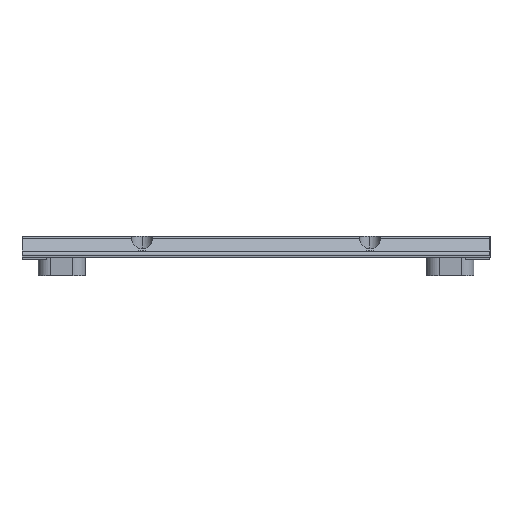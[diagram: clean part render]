
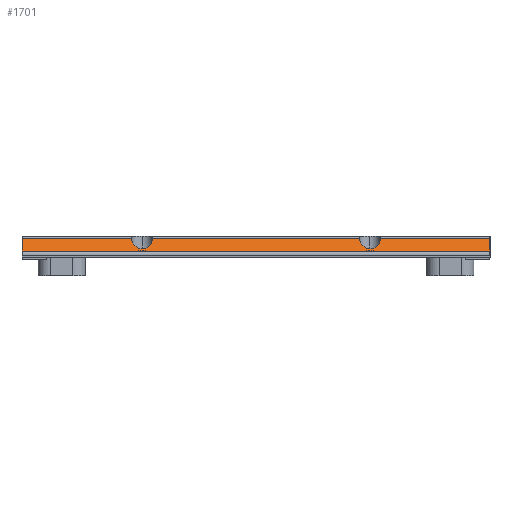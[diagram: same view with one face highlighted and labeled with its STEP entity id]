
A CAD part, left-side view. The second image highlights one B-rep face of the part: STEP entity #1701.
In plain terms, the highlighted planar face has unit normal (-0.707, 0, 0.707).
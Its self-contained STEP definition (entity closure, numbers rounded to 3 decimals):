
#29 = EDGE_CURVE ( 'NONE', #6920, #5671, #7888, .T. ) ;
#167 = VERTEX_POINT ( 'NONE', #7973 ) ;
#470 = DIRECTION ( 'NONE',  ( 0., -1., 0. ) ) ;
#500 = LINE ( 'NONE', #8549, #6108 ) ;
#873 = EDGE_CURVE ( 'NONE', #5671, #3941, #1386, .T. ) ;
#961 = EDGE_CURVE ( 'NONE', #167, #2543, #8528, .T. ) ;
#1265 = DIRECTION ( 'NONE',  ( -0.707, 0., 0.707 ) ) ;
#1352 = CARTESIAN_POINT ( 'NONE',  ( 1.561, 0., 4.561 ) ) ;
#1386 =( BOUNDED_CURVE ( )  B_SPLINE_CURVE ( 3, ( #1883, #2552, #3943, #8886 ),
 .UNSPECIFIED., .F., .F. ) 
 B_SPLINE_CURVE_WITH_KNOTS ( ( 4, 4 ),
 ( 3.142, 4.737 ),
 .UNSPECIFIED. ) 
 CURVE ( )  GEOMETRIC_REPRESENTATION_ITEM ( )  RATIONAL_B_SPLINE_CURVE ( ( 1., 0.799, 0.799, 1. ) ) 
 REPRESENTATION_ITEM ( '' )  );
#1423 = AXIS2_PLACEMENT_3D ( 'NONE', #2001, #1265, #6205 ) ;
#1492 =( BOUNDED_CURVE ( )  B_SPLINE_CURVE ( 3, ( #6157, #6124, #4705, #4014 ),
 .UNSPECIFIED., .F., .F. ) 
 B_SPLINE_CURVE_WITH_KNOTS ( ( 4, 4 ),
 ( 1.547, 3.142 ),
 .UNSPECIFIED. ) 
 CURVE ( )  GEOMETRIC_REPRESENTATION_ITEM ( )  RATIONAL_B_SPLINE_CURVE ( ( 1., 0.799, 0.799, 1. ) ) 
 REPRESENTATION_ITEM ( '' )  );
#1701 = ADVANCED_FACE ( 'NONE', ( #7305 ), #2496, .T. ) ;
#1883 = CARTESIAN_POINT ( 'NONE',  ( -1., 16.937, 2. ) ) ;
#2001 = CARTESIAN_POINT ( 'NONE',  ( 2., 0., 5. ) ) ;
#2014 = DIRECTION ( 'NONE',  ( 0., 1., 0. ) ) ;
#2102 = CARTESIAN_POINT ( 'NONE',  ( 1.561, 19.436, 4.561 ) ) ;
#2128 = ORIENTED_EDGE ( 'NONE', *, *, #8647, .T. ) ;
#2217 = CARTESIAN_POINT ( 'NONE',  ( 1.561, 19.436, 4.561 ) ) ;
#2383 = ORIENTED_EDGE ( 'NONE', *, *, #6782, .T. ) ;
#2496 = PLANE ( 'NONE',  #1423 ) ;
#2543 = VERTEX_POINT ( 'NONE', #7239 ) ;
#2552 = CARTESIAN_POINT ( 'NONE',  ( -1., 15.444, 2. ) ) ;
#2733 = ORIENTED_EDGE ( 'NONE', *, *, #4432, .T. ) ;
#2932 = CARTESIAN_POINT ( 'NONE',  ( 0.068, 19.472, 3.068 ) ) ;
#3137 = EDGE_CURVE ( 'NONE', #6920, #2543, #4679, .T. ) ;
#3174 = VECTOR ( 'NONE', #7853, 1000. ) ;
#3394 = CARTESIAN_POINT ( 'NONE',  ( 1.561, 0., 4.561 ) ) ;
#3476 = VECTOR ( 'NONE', #7976, 1000. ) ;
#3630 = ORIENTED_EDGE ( 'NONE', *, *, #873, .F. ) ;
#3662 = EDGE_CURVE ( 'NONE', #7657, #8117, #1492, .T. ) ;
#3941 = VERTEX_POINT ( 'NONE', #5366 ) ;
#3943 = CARTESIAN_POINT ( 'NONE',  ( 0.068, 14.401, 3.068 ) ) ;
#3985 = CARTESIAN_POINT ( 'NONE',  ( -1., -39.556, 2. ) ) ;
#4014 = CARTESIAN_POINT ( 'NONE',  ( -1., -38.063, 2. ) ) ;
#4379 = ORIENTED_EDGE ( 'NONE', *, *, #8189, .F. ) ;
#4432 = EDGE_CURVE ( 'NONE', #167, #6433, #7823, .T. ) ;
#4654 = EDGE_LOOP ( 'NONE', ( #8490, #2128, #4379, #6588, #2383, #3630, #7326, #7445, #7902, #2733 ) ) ;
#4668 = CARTESIAN_POINT ( 'NONE',  ( -1.561, -67.063, 1.439 ) ) ;
#4679 = LINE ( 'NONE', #5863, #3476 ) ;
#4705 = CARTESIAN_POINT ( 'NONE',  ( -1., -36.57, 2. ) ) ;
#5046 = VECTOR ( 'NONE', #2014, 1000. ) ;
#5255 = CARTESIAN_POINT ( 'NONE',  ( 1.561, -67.063, 4.561 ) ) ;
#5332 = CARTESIAN_POINT ( 'NONE',  ( -1., -38.063, 2. ) ) ;
#5361 = CARTESIAN_POINT ( 'NONE',  ( 0.068, -40.599, 3.068 ) ) ;
#5366 = CARTESIAN_POINT ( 'NONE',  ( 1.561, 14.437, 4.561 ) ) ;
#5436 = DIRECTION ( 'NONE',  ( 0.707, 0., 0.707 ) ) ;
#5671 = VERTEX_POINT ( 'NONE', #8491 ) ;
#5757 = VECTOR ( 'NONE', #5436, 1000. ) ;
#5800 = DIRECTION ( 'NONE',  ( -0.707, 0., -0.707 ) ) ;
#5863 = CARTESIAN_POINT ( 'NONE',  ( 1.561, 0., 4.561 ) ) ;
#6108 = VECTOR ( 'NONE', #5800, 1000. ) ;
#6124 = CARTESIAN_POINT ( 'NONE',  ( 0.068, -35.528, 3.068 ) ) ;
#6157 = CARTESIAN_POINT ( 'NONE',  ( 1.561, -35.564, 4.561 ) ) ;
#6205 = DIRECTION ( 'NONE',  ( 0., 1., 0. ) ) ;
#6348 = CARTESIAN_POINT ( 'NONE',  ( 1.561, -40.563, 4.561 ) ) ;
#6433 = VERTEX_POINT ( 'NONE', #7815 ) ;
#6588 = ORIENTED_EDGE ( 'NONE', *, *, #3662, .F. ) ;
#6600 = CARTESIAN_POINT ( 'NONE',  ( -1., -38.063, 2. ) ) ;
#6782 = EDGE_CURVE ( 'NONE', #7657, #3941, #8306, .T. ) ;
#6920 = VERTEX_POINT ( 'NONE', #2102 ) ;
#7157 = CARTESIAN_POINT ( 'NONE',  ( -1., 18.43, 2. ) ) ;
#7190 = CARTESIAN_POINT ( 'NONE',  ( -1., 16.937, 2. ) ) ;
#7239 = CARTESIAN_POINT ( 'NONE',  ( 1.561, 45.937, 4.561 ) ) ;
#7305 = FACE_OUTER_BOUND ( 'NONE', #4654, .T. ) ;
#7326 = ORIENTED_EDGE ( 'NONE', *, *, #29, .F. ) ;
#7445 = ORIENTED_EDGE ( 'NONE', *, *, #3137, .T. ) ;
#7596 = VECTOR ( 'NONE', #470, 1000. ) ;
#7657 = VERTEX_POINT ( 'NONE', #8005 ) ;
#7664 = LINE ( 'NONE', #1352, #3174 ) ;
#7721 = VERTEX_POINT ( 'NONE', #5255 ) ;
#7815 = CARTESIAN_POINT ( 'NONE',  ( -1.561, -67.063, 1.439 ) ) ;
#7823 = LINE ( 'NONE', #4668, #7596 ) ;
#7853 = DIRECTION ( 'NONE',  ( 0., 1., 0. ) ) ;
#7888 =( BOUNDED_CURVE ( )  B_SPLINE_CURVE ( 3, ( #2217, #2932, #7157, #7190 ),
 .UNSPECIFIED., .F., .F. ) 
 B_SPLINE_CURVE_WITH_KNOTS ( ( 4, 4 ),
 ( 1.547, 3.142 ),
 .UNSPECIFIED. ) 
 CURVE ( )  GEOMETRIC_REPRESENTATION_ITEM ( )  RATIONAL_B_SPLINE_CURVE ( ( 1., 0.799, 0.799, 1. ) ) 
 REPRESENTATION_ITEM ( '' )  );
#7902 = ORIENTED_EDGE ( 'NONE', *, *, #961, .F. ) ;
#7915 = VERTEX_POINT ( 'NONE', #6348 ) ;
#7973 = CARTESIAN_POINT ( 'NONE',  ( -1.561, 45.937, 1.439 ) ) ;
#7976 = DIRECTION ( 'NONE',  ( 0., 1., 0. ) ) ;
#8005 = CARTESIAN_POINT ( 'NONE',  ( 1.561, -35.564, 4.561 ) ) ;
#8117 = VERTEX_POINT ( 'NONE', #6600 ) ;
#8156 = CARTESIAN_POINT ( 'NONE',  ( 1.561, -40.563, 4.561 ) ) ;
#8189 = EDGE_CURVE ( 'NONE', #8117, #7915, #8471, .T. ) ;
#8209 = CARTESIAN_POINT ( 'NONE',  ( 2., 45.937, 5. ) ) ;
#8306 = LINE ( 'NONE', #3394, #5046 ) ;
#8442 = EDGE_CURVE ( 'NONE', #7721, #6433, #500, .T. ) ;
#8471 =( BOUNDED_CURVE ( )  B_SPLINE_CURVE ( 3, ( #5332, #3985, #5361, #8156 ),
 .UNSPECIFIED., .F., .T. ) 
 B_SPLINE_CURVE_WITH_KNOTS ( ( 4, 4 ),
 ( 3.142, 4.737 ),
 .UNSPECIFIED. ) 
 CURVE ( )  GEOMETRIC_REPRESENTATION_ITEM ( )  RATIONAL_B_SPLINE_CURVE ( ( 1., 0.799, 0.799, 1. ) ) 
 REPRESENTATION_ITEM ( '' )  );
#8490 = ORIENTED_EDGE ( 'NONE', *, *, #8442, .F. ) ;
#8491 = CARTESIAN_POINT ( 'NONE',  ( -1., 16.937, 2. ) ) ;
#8528 = LINE ( 'NONE', #8209, #5757 ) ;
#8549 = CARTESIAN_POINT ( 'NONE',  ( 2., -67.063, 5. ) ) ;
#8647 = EDGE_CURVE ( 'NONE', #7721, #7915, #7664, .T. ) ;
#8886 = CARTESIAN_POINT ( 'NONE',  ( 1.561, 14.437, 4.561 ) ) ;
